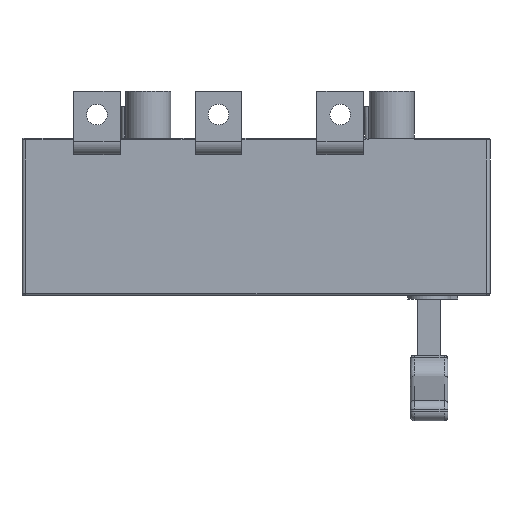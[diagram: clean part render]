
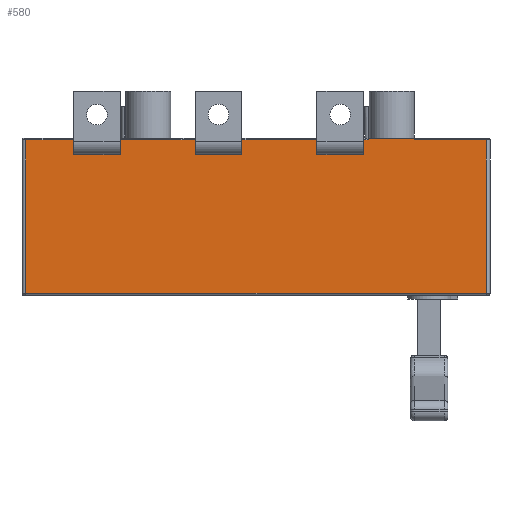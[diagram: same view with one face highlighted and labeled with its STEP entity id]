
A CAD part, front view. The second image highlights one B-rep face of the part: STEP entity #580.
In plain terms, the highlighted planar face has unit normal (0, -1, 0).
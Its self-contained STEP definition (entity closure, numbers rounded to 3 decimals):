
#178=PLANE('',#5080);
#580=ADVANCED_FACE('',(#890),#178,.T.);
#890=FACE_OUTER_BOUND('',#1225,.T.);
#1225=EDGE_LOOP('',(#3183,#3184,#3185,#3186,#3187,#3188,#3189,#3190,#3191,
#3192,#3193,#3194,#3195,#3196,#3197,#3198,#3199,#3200,#3201,#3202,#3203,
#3204,#3205,#3206,#3207,#3208,#3209,#3210));
#1266=LINE('',#6582,#1647);
#1268=LINE('',#6590,#1649);
#1297=LINE('',#6671,#1678);
#1299=LINE('',#6679,#1680);
#1328=LINE('',#6760,#1709);
#1330=LINE('',#6768,#1711);
#1457=LINE('',#7272,#1838);
#1458=LINE('',#7274,#1839);
#1461=LINE('',#7280,#1842);
#1462=LINE('',#7282,#1843);
#1466=LINE('',#7290,#1847);
#1489=LINE('',#7400,#1870);
#1498=LINE('',#7491,#1879);
#1503=LINE('',#7508,#1884);
#1504=LINE('',#7510,#1885);
#1526=LINE('',#7634,#1907);
#1533=LINE('',#7683,#1914);
#1565=LINE('',#7783,#1946);
#1571=LINE('',#7795,#1952);
#1581=LINE('',#7815,#1962);
#1599=LINE('',#7861,#1980);
#1601=LINE('',#7864,#1982);
#1603=LINE('',#7867,#1984);
#1605=LINE('',#7870,#1986);
#1611=LINE('',#7878,#1992);
#1612=LINE('',#7879,#1993);
#1613=LINE('',#7880,#1994);
#1614=LINE('',#7881,#1995);
#1647=VECTOR('',#5167,1.);
#1649=VECTOR('',#5175,1.);
#1678=VECTOR('',#5250,1.);
#1680=VECTOR('',#5258,1.);
#1709=VECTOR('',#5333,1.);
#1711=VECTOR('',#5341,1.);
#1838=VECTOR('',#5890,1.);
#1839=VECTOR('',#5893,1.);
#1842=VECTOR('',#5898,1.);
#1843=VECTOR('',#5901,1.);
#1847=VECTOR('',#5907,1.);
#1870=VECTOR('',#6004,1.);
#1879=VECTOR('',#6069,1.);
#1884=VECTOR('',#6092,1.);
#1885=VECTOR('',#6095,1.);
#1907=VECTOR('',#6233,1.);
#1914=VECTOR('',#6254,1.);
#1946=VECTOR('',#6354,1.);
#1952=VECTOR('',#6366,1.);
#1962=VECTOR('',#6388,1.);
#1980=VECTOR('',#6446,1.);
#1982=VECTOR('',#6450,1.);
#1984=VECTOR('',#6454,1.);
#1986=VECTOR('',#6458,1.);
#1992=VECTOR('',#6468,1.);
#1993=VECTOR('',#6469,1.);
#1994=VECTOR('',#6470,1.);
#1995=VECTOR('',#6471,1.);
#3183=ORIENTED_EDGE('',*,*,#4321,.T.);
#3184=ORIENTED_EDGE('',*,*,#4059,.T.);
#3185=ORIENTED_EDGE('',*,*,#3820,.F.);
#3186=ORIENTED_EDGE('',*,*,#4315,.T.);
#3187=ORIENTED_EDGE('',*,*,#4152,.F.);
#3188=ORIENTED_EDGE('',*,*,#4142,.T.);
#3189=ORIENTED_EDGE('',*,*,#4151,.T.);
#3190=ORIENTED_EDGE('',*,*,#4112,.T.);
#3191=ORIENTED_EDGE('',*,*,#4276,.T.);
#3192=ORIENTED_EDGE('',*,*,#4269,.F.);
#3193=ORIENTED_EDGE('',*,*,#4205,.F.);
#3194=ORIENTED_EDGE('',*,*,#4287,.T.);
#3195=ORIENTED_EDGE('',*,*,#4218,.T.);
#3196=ORIENTED_EDGE('',*,*,#4309,.T.);
#3197=ORIENTED_EDGE('',*,*,#3730,.T.);
#3198=ORIENTED_EDGE('',*,*,#4322,.F.);
#3199=ORIENTED_EDGE('',*,*,#4067,.T.);
#3200=ORIENTED_EDGE('',*,*,#4323,.T.);
#3201=ORIENTED_EDGE('',*,*,#3734,.T.);
#3202=ORIENTED_EDGE('',*,*,#4311,.T.);
#3203=ORIENTED_EDGE('',*,*,#3773,.F.);
#3204=ORIENTED_EDGE('',*,*,#4062,.F.);
#3205=ORIENTED_EDGE('',*,*,#4324,.T.);
#3206=ORIENTED_EDGE('',*,*,#4063,.T.);
#3207=ORIENTED_EDGE('',*,*,#3777,.F.);
#3208=ORIENTED_EDGE('',*,*,#4313,.T.);
#3209=ORIENTED_EDGE('',*,*,#3816,.F.);
#3210=ORIENTED_EDGE('',*,*,#4058,.F.);
#3279=VERTEX_POINT('',#6514);
#3281=VERTEX_POINT('',#6518);
#3303=VERTEX_POINT('',#6583);
#3305=VERTEX_POINT('',#6589);
#3311=VERTEX_POINT('',#6603);
#3314=VERTEX_POINT('',#6609);
#3335=VERTEX_POINT('',#6672);
#3337=VERTEX_POINT('',#6678);
#3343=VERTEX_POINT('',#6692);
#3346=VERTEX_POINT('',#6698);
#3367=VERTEX_POINT('',#6761);
#3369=VERTEX_POINT('',#6767);
#3523=VERTEX_POINT('',#7271);
#3524=VERTEX_POINT('',#7275);
#3525=VERTEX_POINT('',#7279);
#3526=VERTEX_POINT('',#7283);
#3527=VERTEX_POINT('',#7287);
#3528=VERTEX_POINT('',#7289);
#3560=VERTEX_POINT('',#7378);
#3561=VERTEX_POINT('',#7398);
#3569=VERTEX_POINT('',#7419);
#3579=VERTEX_POINT('',#7446);
#3583=VERTEX_POINT('',#7488);
#3631=VERTEX_POINT('',#7633);
#3632=VERTEX_POINT('',#7635);
#3639=VERTEX_POINT('',#7665);
#3642=VERTEX_POINT('',#7682);
#3677=VERTEX_POINT('',#7784);
#3730=EDGE_CURVE('',#3303,#3279,#1266,.T.);
#3734=EDGE_CURVE('',#3281,#3305,#1268,.T.);
#3773=EDGE_CURVE('',#3311,#3335,#1297,.T.);
#3777=EDGE_CURVE('',#3337,#3314,#1299,.T.);
#3816=EDGE_CURVE('',#3343,#3367,#1328,.T.);
#3820=EDGE_CURVE('',#3369,#3346,#1330,.T.);
#4058=EDGE_CURVE('',#3523,#3343,#1457,.T.);
#4059=EDGE_CURVE('',#3524,#3346,#1458,.T.);
#4062=EDGE_CURVE('',#3525,#3311,#1461,.T.);
#4063=EDGE_CURVE('',#3526,#3314,#1462,.T.);
#4067=EDGE_CURVE('',#3527,#3528,#1466,.T.);
#4112=EDGE_CURVE('',#3560,#3561,#1489,.T.);
#4142=EDGE_CURVE('',#3583,#3579,#1498,.T.);
#4151=EDGE_CURVE('',#3579,#3560,#1503,.T.);
#4152=EDGE_CURVE('',#3583,#3569,#1504,.T.);
#4205=EDGE_CURVE('',#3631,#3632,#1526,.T.);
#4218=EDGE_CURVE('',#3639,#3642,#1533,.T.);
#4269=EDGE_CURVE('',#3632,#3677,#1565,.T.);
#4276=EDGE_CURVE('',#3561,#3677,#1571,.T.);
#4287=EDGE_CURVE('',#3631,#3639,#1581,.T.);
#4309=EDGE_CURVE('',#3642,#3303,#1599,.T.);
#4311=EDGE_CURVE('',#3305,#3335,#1601,.T.);
#4313=EDGE_CURVE('',#3337,#3367,#1603,.T.);
#4315=EDGE_CURVE('',#3369,#3569,#1605,.T.);
#4321=EDGE_CURVE('',#3523,#3524,#1611,.T.);
#4322=EDGE_CURVE('',#3527,#3279,#1612,.T.);
#4323=EDGE_CURVE('',#3528,#3281,#1613,.T.);
#4324=EDGE_CURVE('',#3525,#3526,#1614,.T.);
#5080=AXIS2_PLACEMENT_3D('',#7882,#6472,#6473);
#5167=DIRECTION('',(0.,0.,-1.));
#5175=DIRECTION('',(0.,0.,1.));
#5250=DIRECTION('',(0.,0.,1.));
#5258=DIRECTION('',(0.,0.,-1.));
#5333=DIRECTION('',(0.,0.,1.));
#5341=DIRECTION('',(0.,0.,-1.));
#5890=DIRECTION('',(0.,0.,1.));
#5893=DIRECTION('',(0.,0.,1.));
#5898=DIRECTION('',(0.,0.,1.));
#5901=DIRECTION('',(0.,0.,1.));
#5907=DIRECTION('',(-1.,0.,0.));
#6004=DIRECTION('',(-1.,0.,0.));
#6069=DIRECTION('',(1.,0.,0.));
#6092=DIRECTION('',(0.,0.,1.));
#6095=DIRECTION('',(0.,0.,1.));
#6233=DIRECTION('',(0.,0.,-1.));
#6254=DIRECTION('',(0.,0.,-1.));
#6354=DIRECTION('',(1.,0.,0.));
#6366=DIRECTION('',(0.,0.,1.));
#6388=DIRECTION('',(-1.,0.,0.));
#6446=DIRECTION('',(-1.,0.,0.));
#6450=DIRECTION('',(-1.,0.,0.));
#6454=DIRECTION('',(-1.,0.,0.));
#6458=DIRECTION('',(-1.,0.,0.));
#6468=DIRECTION('',(-1.,0.,0.));
#6469=DIRECTION('',(0.,0.,1.));
#6470=DIRECTION('',(0.,0.,1.));
#6471=DIRECTION('',(-1.,0.,0.));
#6472=DIRECTION('',(0.,-1.,0.));
#6473=DIRECTION('',(1.,0.,0.));
#6514=CARTESIAN_POINT('',(-15.,-52.5,-3.718));
#6518=CARTESIAN_POINT('',(-40.,-52.5,-3.718));
#6582=CARTESIAN_POINT('',(-15.,-52.5,4.));
#6583=CARTESIAN_POINT('',(-15.,-52.5,-1.));
#6589=CARTESIAN_POINT('',(-40.,-52.5,-1.));
#6590=CARTESIAN_POINT('',(-40.,-52.5,4.));
#6603=CARTESIAN_POINT('',(-80.,-52.5,-3.718));
#6609=CARTESIAN_POINT('',(-105.,-52.5,-3.718));
#6671=CARTESIAN_POINT('',(-80.,-52.5,4.));
#6672=CARTESIAN_POINT('',(-80.,-52.5,-1.));
#6678=CARTESIAN_POINT('',(-105.,-52.5,-1.));
#6679=CARTESIAN_POINT('',(-105.,-52.5,4.));
#6692=CARTESIAN_POINT('',(-145.,-52.5,-3.718));
#6698=CARTESIAN_POINT('',(-170.,-52.5,-3.718));
#6760=CARTESIAN_POINT('',(-145.,-52.5,4.));
#6761=CARTESIAN_POINT('',(-145.,-52.5,-1.));
#6767=CARTESIAN_POINT('',(-170.,-52.5,-1.));
#6768=CARTESIAN_POINT('',(-170.,-52.5,4.));
#7271=CARTESIAN_POINT('',(-145.,-52.5,-9.));
#7272=CARTESIAN_POINT('',(-145.,-52.5,-9.));
#7274=CARTESIAN_POINT('',(-170.,-52.5,-9.));
#7275=CARTESIAN_POINT('',(-170.,-52.5,-9.));
#7279=CARTESIAN_POINT('',(-80.,-52.5,-9.));
#7280=CARTESIAN_POINT('',(-80.,-52.5,-9.));
#7282=CARTESIAN_POINT('',(-105.,-52.5,-9.));
#7283=CARTESIAN_POINT('',(-105.,-52.5,-9.));
#7287=CARTESIAN_POINT('',(-15.,-52.5,-9.));
#7289=CARTESIAN_POINT('',(-40.,-52.5,-9.));
#7290=CARTESIAN_POINT('',(-15.,-52.5,-9.));
#7378=CARTESIAN_POINT('',(50.5,-52.5,-1.));
#7398=CARTESIAN_POINT('',(12.,-52.5,-1.));
#7400=CARTESIAN_POINT('',(12.,-52.5,-1.));
#7419=CARTESIAN_POINT('',(-195.5,-52.5,-1.));
#7446=CARTESIAN_POINT('',(50.5,-52.5,-83.));
#7488=CARTESIAN_POINT('',(-195.5,-52.5,-83.));
#7491=CARTESIAN_POINT('',(-12.,-52.5,-83.));
#7508=CARTESIAN_POINT('',(50.5,-52.5,-84.));
#7510=CARTESIAN_POINT('',(-195.5,-52.5,-84.));
#7633=CARTESIAN_POINT('',(-12.,-52.5,17.));
#7634=CARTESIAN_POINT('',(-12.,-52.5,25.));
#7635=CARTESIAN_POINT('',(-12.,-52.5,0.));
#7665=CARTESIAN_POINT('',(-12.5,-52.5,17.));
#7682=CARTESIAN_POINT('',(-12.5,-52.5,-1.));
#7683=CARTESIAN_POINT('',(-12.5,-52.5,4.));
#7783=CARTESIAN_POINT('',(50.5,-52.5,0.));
#7784=CARTESIAN_POINT('',(12.,-52.5,0.));
#7795=CARTESIAN_POINT('',(12.,-52.5,4.));
#7815=CARTESIAN_POINT('',(7.5,-52.5,17.));
#7861=CARTESIAN_POINT('',(-195.5,-52.5,-1.));
#7864=CARTESIAN_POINT('',(-195.5,-52.5,-1.));
#7867=CARTESIAN_POINT('',(-195.5,-52.5,-1.));
#7870=CARTESIAN_POINT('',(-195.5,-52.5,-1.));
#7878=CARTESIAN_POINT('',(-145.,-52.5,-9.));
#7879=CARTESIAN_POINT('',(-15.,-52.5,-9.));
#7880=CARTESIAN_POINT('',(-40.,-52.5,-9.));
#7881=CARTESIAN_POINT('',(-80.,-52.5,-9.));
#7882=CARTESIAN_POINT('',(-12.,-52.5,4.));
